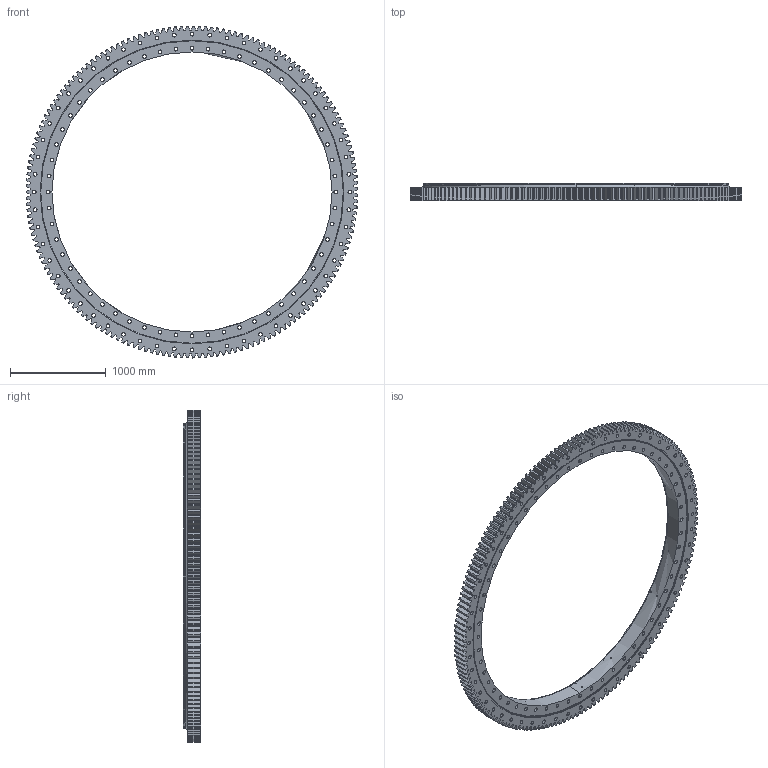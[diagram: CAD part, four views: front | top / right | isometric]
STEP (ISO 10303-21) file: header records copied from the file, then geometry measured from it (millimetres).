
FILE_DESCRIPTION (( 'STEP AP214' ), '1' );
FILE_NAME ('SM3332-2-3476AA.STEP', '2022-11-29T07:10:59', ( '' ), ( '' ), 'SwSTEP 2.0', 'SolidWorks 2020', '' );
FILE_SCHEMA (( 'AUTOMOTIVE_DESIGN' ));
Length unit declared in the file: millimetre
Products named in the file (1): SM3332-2-3476AA
Bounding box: 3475.84 x 182 x 3475.97 mm (x, y, z)
Volume: 370854040.3 mm3; surface area: 17343214.6 mm2
Topology: 5 solids, 5 shells, 1629 faces, 4733 edges, 3152 vertices
Faces by surface type: cylinder 522, plane 411, cone 354, bspline 342
Entity records: 57497 total; most frequent: CARTESIAN_POINT 16381, ORIENTED_EDGE 9466, DIRECTION 7257, EDGE_CURVE 4733, VERTEX_POINT 3152, AXIS2_PLACEMENT_3D 2660, VECTOR 1937, LINE 1937
